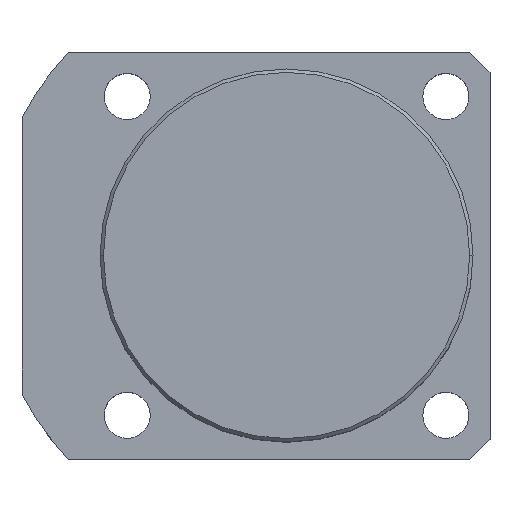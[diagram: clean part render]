
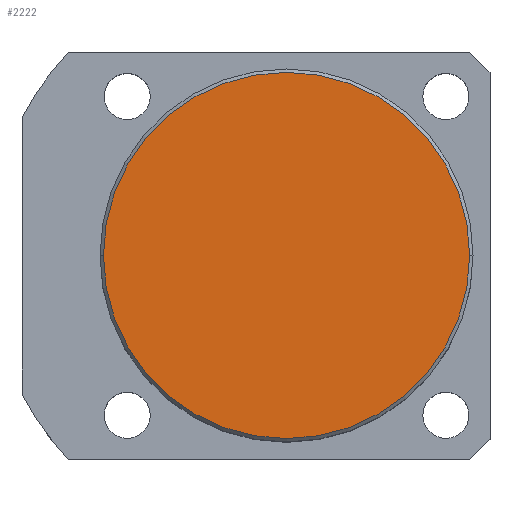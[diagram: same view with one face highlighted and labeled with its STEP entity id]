
A CAD part, top view. The second image highlights one B-rep face of the part: STEP entity #2222.
In plain terms, the highlighted planar face has unit normal (0, 0, 1).
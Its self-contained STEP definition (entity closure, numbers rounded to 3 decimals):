
#95 = DIRECTION ( 'NONE',  ( 1., 0., 0. ) ) ;
#203 = CIRCLE ( 'NONE', #4711, 27. ) ;
#455 = VERTEX_POINT ( 'NONE', #1672 ) ;
#580 = ORIENTED_EDGE ( 'NONE', *, *, #3916, .T. ) ;
#805 = CIRCLE ( 'NONE', #4792, 27. ) ;
#973 = CARTESIAN_POINT ( 'NONE',  ( 0., 0., 45. ) ) ;
#1123 = EDGE_CURVE ( 'NONE', #455, #2891, #203, .T. ) ;
#1355 = DIRECTION ( 'NONE',  ( 1., 0., 0. ) ) ;
#1672 = CARTESIAN_POINT ( 'NONE',  ( -27., 0., 45. ) ) ;
#1936 = EDGE_LOOP ( 'NONE', ( #3808, #580 ) ) ;
#2222 = ADVANCED_FACE ( 'NONE', ( #2883 ), #3488, .T. ) ;
#2798 = CARTESIAN_POINT ( 'NONE',  ( 0., 0., 45. ) ) ;
#2883 = FACE_OUTER_BOUND ( 'NONE', #1936, .T. ) ;
#2891 = VERTEX_POINT ( 'NONE', #4149 ) ;
#3107 = DIRECTION ( 'NONE',  ( 0., 0., 1. ) ) ;
#3488 = PLANE ( 'NONE',  #4291 ) ;
#3685 = DIRECTION ( 'NONE',  ( 0., 0., 1. ) ) ;
#3728 = DIRECTION ( 'NONE',  ( 1., 0., 0. ) ) ;
#3808 = ORIENTED_EDGE ( 'NONE', *, *, #1123, .T. ) ;
#3916 = EDGE_CURVE ( 'NONE', #2891, #455, #805, .T. ) ;
#3920 = CARTESIAN_POINT ( 'NONE',  ( 0., 0., 45. ) ) ;
#4149 = CARTESIAN_POINT ( 'NONE',  ( 27., 0., 45. ) ) ;
#4291 = AXIS2_PLACEMENT_3D ( 'NONE', #2798, #3107, #3728 ) ;
#4466 = DIRECTION ( 'NONE',  ( 0., 0., 1. ) ) ;
#4711 = AXIS2_PLACEMENT_3D ( 'NONE', #3920, #4466, #95 ) ;
#4792 = AXIS2_PLACEMENT_3D ( 'NONE', #973, #3685, #1355 ) ;
